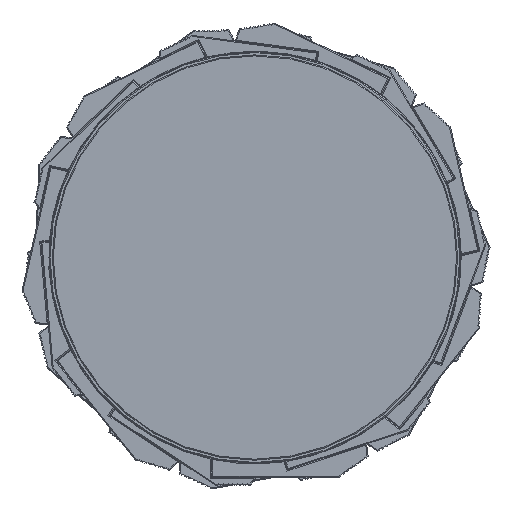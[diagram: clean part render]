
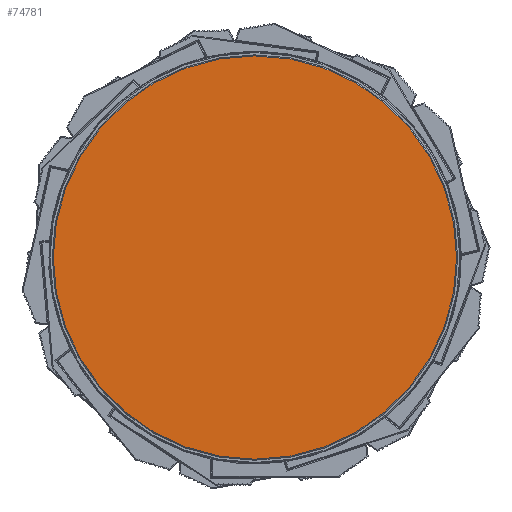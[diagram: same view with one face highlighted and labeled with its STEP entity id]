
A CAD part, front view. The second image highlights one B-rep face of the part: STEP entity #74781.
In plain terms, the highlighted planar face has unit normal (0, -1, 0).
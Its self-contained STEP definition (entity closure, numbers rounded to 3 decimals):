
#3778 = CARTESIAN_POINT ( 'NONE',  ( 0., -30., 278.586 ) ) ;
#4380 = CIRCLE ( 'NONE', #38338, 278.586 ) ;
#4460 = CIRCLE ( 'NONE', #39814, 278.586 ) ;
#5041 = DIRECTION ( 'NONE',  ( -0.5, 0., 0.866 ) ) ;
#5107 = CARTESIAN_POINT ( 'NONE',  ( 139.293, -30., -241.262 ) ) ;
#6052 = CARTESIAN_POINT ( 'NONE',  ( 0., -30., 0. ) ) ;
#6694 = DIRECTION ( 'NONE',  ( 0., -1., 0. ) ) ;
#6843 = CIRCLE ( 'NONE', #46515, 278.586 ) ;
#7749 = EDGE_CURVE ( 'Defeatured_0_0+Defeatured_0_2776+Defeatured_0_0+Defeatured_0_0', #70038, #81431, #17393, .T. ) ;
#8425 = PLANE ( 'NONE',  #55498 ) ;
#11446 = DIRECTION ( 'NONE',  ( 0.5, 0., 0.866 ) ) ;
#12312 = AXIS2_PLACEMENT_3D ( 'NONE', #55183, #14849, #21497 ) ;
#13265 = VERTEX_POINT ( 'NONE', #47044 ) ;
#13484 = AXIS2_PLACEMENT_3D ( 'NONE', #21412, #20984, #59258 ) ;
#14204 = DIRECTION ( 'NONE',  ( 0.5, 0., -0.866 ) ) ;
#14659 = AXIS2_PLACEMENT_3D ( 'NONE', #60305, #87342, #60735 ) ;
#14849 = DIRECTION ( 'NONE',  ( 0., -1., 0. ) ) ;
#16397 = EDGE_CURVE ( 'Defeatured_0_0+Defeatured_0_2+Defeatured_0_0+Defeatured_0_0', #27866, #45383, #6843, .T. ) ;
#17336 = VERTEX_POINT ( 'NONE', #20880 ) ;
#17393 = CIRCLE ( 'NONE', #25851, 278.586 ) ;
#18197 = VERTEX_POINT ( 'NONE', #3778 ) ;
#18937 = DIRECTION ( 'NONE',  ( 0., -1., 0. ) ) ;
#19123 = CIRCLE ( 'NONE', #13484, 278.586 ) ;
#19820 = DIRECTION ( 'NONE',  ( 0.5, 0., 0.866 ) ) ;
#20880 = CARTESIAN_POINT ( 'NONE',  ( 241.262, -30., 139.293 ) ) ;
#20984 = DIRECTION ( 'NONE',  ( 0., -1., 0. ) ) ;
#21412 = CARTESIAN_POINT ( 'NONE',  ( 0., -30., 0. ) ) ;
#21497 = DIRECTION ( 'NONE',  ( -1., 0., 0. ) ) ;
#22026 = CIRCLE ( 'NONE', #33561, 278.586 ) ;
#22677 = ORIENTED_EDGE ( 'NONE', *, *, #61120, .T. ) ;
#24222 = EDGE_CURVE ( 'Defeatured_0_0+Defeatured_0_2780+Defeatured_0_0+Defeatured_0_0', #81172, #18197, #86978, .T. ) ;
#25851 = AXIS2_PLACEMENT_3D ( 'NONE', #66737, #26831, #79613 ) ;
#26831 = DIRECTION ( 'NONE',  ( 0., -1., 0. ) ) ;
#26863 = DIRECTION ( 'NONE',  ( 0., -1., 0. ) ) ;
#26908 = CARTESIAN_POINT ( 'NONE',  ( 0., -30., 0. ) ) ;
#27466 = ORIENTED_EDGE ( 'NONE', *, *, #66493, .T. ) ;
#27763 = DIRECTION ( 'NONE',  ( 0., -1., 0. ) ) ;
#27866 = VERTEX_POINT ( 'NONE', #60376 ) ;
#28807 = CARTESIAN_POINT ( 'NONE',  ( 0., -30., 0. ) ) ;
#29565 = EDGE_CURVE ( 'Defeatured_0_0+Defeatured_0_2778+Defeatured_0_0+Defeatured_0_0', #55747, #13265, #61973, .T. ) ;
#29776 = CARTESIAN_POINT ( 'NONE',  ( 0., -30., -278.586 ) ) ;
#30835 = AXIS2_PLACEMENT_3D ( 'NONE', #80105, #27763, #19820 ) ;
#31371 = DIRECTION ( 'NONE',  ( -0.5, 0., -0.866 ) ) ;
#31690 = CIRCLE ( 'NONE', #14659, 278.586 ) ;
#32118 = CIRCLE ( 'NONE', #12312, 278.586 ) ;
#33141 = EDGE_CURVE ( 'Defeatured_0_0+Defeatured_0_2776+Defeatured_0_0+Defeatured_0_0', #60480, #70038, #22026, .T. ) ;
#33561 = AXIS2_PLACEMENT_3D ( 'NONE', #45375, #44076, #5041 ) ;
#33646 = AXIS2_PLACEMENT_3D ( 'NONE', #50906, #72167, #11446 ) ;
#34176 = EDGE_CURVE ( 'Defeatured_0_0+Defeatured_0_2+Defeatured_0_0+Defeatured_0_0', #45383, #55747, #73099, .T. ) ;
#34877 = AXIS2_PLACEMENT_3D ( 'NONE', #63699, #49974, #44628 ) ;
#38338 = AXIS2_PLACEMENT_3D ( 'NONE', #61195, #6694, #14204 ) ;
#39814 = AXIS2_PLACEMENT_3D ( 'NONE', #85429, #18937, #31371 ) ;
#40540 = VERTEX_POINT ( 'NONE', #52477 ) ;
#41027 = EDGE_CURVE ( 'Defeatured_0_0+Defeatured_0_2774+Defeatured_0_0+Defeatured_0_0', #71878, #27866, #4380, .T. ) ;
#44025 = EDGE_CURVE ( 'Defeatured_0_0+Defeatured_0_2774+Defeatured_0_0+Defeatured_0_0', #18197, #71878, #19123, .T. ) ;
#44076 = DIRECTION ( 'NONE',  ( 0., -1., 0. ) ) ;
#44628 = DIRECTION ( 'NONE',  ( 1., 0., 0. ) ) ;
#45375 = CARTESIAN_POINT ( 'NONE',  ( 0., -30., 0. ) ) ;
#45383 = VERTEX_POINT ( 'NONE', #82695 ) ;
#45686 = ORIENTED_EDGE ( 'NONE', *, *, #33141, .T. ) ;
#46511 = EDGE_CURVE ( 'Defeatured_0_0+Defeatured_0_2778+Defeatured_0_0+Defeatured_0_0', #13265, #60480, #53404, .T. ) ;
#46515 = AXIS2_PLACEMENT_3D ( 'NONE', #6052, #26863, #48111 ) ;
#47044 = CARTESIAN_POINT ( 'NONE',  ( -139.293, -30., -241.262 ) ) ;
#48111 = DIRECTION ( 'NONE',  ( 1., 0., 0. ) ) ;
#48502 = CARTESIAN_POINT ( 'NONE',  ( 139.293, -30., 241.262 ) ) ;
#49974 = DIRECTION ( 'NONE',  ( 0., -1., 0. ) ) ;
#50906 = CARTESIAN_POINT ( 'NONE',  ( 0., -30., 0. ) ) ;
#52477 = CARTESIAN_POINT ( 'NONE',  ( 278.586, -30., 0. ) ) ;
#53404 = CIRCLE ( 'NONE', #30835, 278.586 ) ;
#53709 = ORIENTED_EDGE ( 'NONE', *, *, #34176, .T. ) ;
#54637 = EDGE_LOOP ( 'NONE', ( #27466, #80009, #76538, #67715, #77330, #53709, #66464, #79273, #45686, #81979, #22677, #77947 ) ) ;
#55183 = CARTESIAN_POINT ( 'NONE',  ( 0., -30., 0. ) ) ;
#55463 = EDGE_CURVE ( 'Defeatured_0_0+Defeatured_0_2782+Defeatured_0_0+Defeatured_0_0', #40540, #17336, #31690, .T. ) ;
#55498 = AXIS2_PLACEMENT_3D ( 'NONE', #28807, #59682, #73418 ) ;
#55747 = VERTEX_POINT ( 'NONE', #80046 ) ;
#59258 = DIRECTION ( 'NONE',  ( 0.5, 0., -0.866 ) ) ;
#59682 = DIRECTION ( 'NONE',  ( 0., -1., 0. ) ) ;
#60305 = CARTESIAN_POINT ( 'NONE',  ( 0., -30., 0. ) ) ;
#60376 = CARTESIAN_POINT ( 'NONE',  ( -241.262, -30., 139.293 ) ) ;
#60480 = VERTEX_POINT ( 'NONE', #29776 ) ;
#60735 = DIRECTION ( 'NONE',  ( -1., 0., 0. ) ) ;
#61120 = EDGE_CURVE ( 'Defeatured_0_0+Defeatured_0_2782+Defeatured_0_0+Defeatured_0_0', #81431, #40540, #32118, .T. ) ;
#61195 = CARTESIAN_POINT ( 'NONE',  ( 0., -30., 0. ) ) ;
#61973 = CIRCLE ( 'NONE', #33646, 278.586 ) ;
#62932 = AXIS2_PLACEMENT_3D ( 'NONE', #26908, #72270, #65178 ) ;
#63699 = CARTESIAN_POINT ( 'NONE',  ( 0., -30., 0. ) ) ;
#65178 = DIRECTION ( 'NONE',  ( -0.5, 0., -0.866 ) ) ;
#66464 = ORIENTED_EDGE ( 'NONE', *, *, #29565, .T. ) ;
#66493 = EDGE_CURVE ( 'Defeatured_0_0+Defeatured_0_2780+Defeatured_0_0+Defeatured_0_0', #17336, #81172, #4460, .T. ) ;
#66737 = CARTESIAN_POINT ( 'NONE',  ( 0., -30., 0. ) ) ;
#67715 = ORIENTED_EDGE ( 'NONE', *, *, #41027, .T. ) ;
#69141 = FACE_OUTER_BOUND ( 'NONE', #54637, .T. ) ;
#70038 = VERTEX_POINT ( 'NONE', #5107 ) ;
#71878 = VERTEX_POINT ( 'NONE', #77633 ) ;
#72167 = DIRECTION ( 'NONE',  ( 0., -1., 0. ) ) ;
#72270 = DIRECTION ( 'NONE',  ( 0., -1., 0. ) ) ;
#73099 = CIRCLE ( 'NONE', #34877, 278.586 ) ;
#73418 = DIRECTION ( 'NONE',  ( 1., 0., 0. ) ) ;
#74781 = ADVANCED_FACE ( 'Defeatured_0_0', ( #69141 ), #8425, .T. ) ;
#76538 = ORIENTED_EDGE ( 'NONE', *, *, #44025, .T. ) ;
#77330 = ORIENTED_EDGE ( 'NONE', *, *, #16397, .T. ) ;
#77633 = CARTESIAN_POINT ( 'NONE',  ( -139.293, -30., 241.262 ) ) ;
#77947 = ORIENTED_EDGE ( 'NONE', *, *, #55463, .T. ) ;
#79273 = ORIENTED_EDGE ( 'NONE', *, *, #46511, .T. ) ;
#79613 = DIRECTION ( 'NONE',  ( -0.5, 0., 0.866 ) ) ;
#80009 = ORIENTED_EDGE ( 'NONE', *, *, #24222, .T. ) ;
#80046 = CARTESIAN_POINT ( 'NONE',  ( -241.262, -30., -139.293 ) ) ;
#80105 = CARTESIAN_POINT ( 'NONE',  ( 0., -30., 0. ) ) ;
#81172 = VERTEX_POINT ( 'NONE', #48502 ) ;
#81431 = VERTEX_POINT ( 'NONE', #86129 ) ;
#81979 = ORIENTED_EDGE ( 'NONE', *, *, #7749, .T. ) ;
#82695 = CARTESIAN_POINT ( 'NONE',  ( -278.586, -30., 0. ) ) ;
#85429 = CARTESIAN_POINT ( 'NONE',  ( 0., -30., 0. ) ) ;
#86129 = CARTESIAN_POINT ( 'NONE',  ( 241.262, -30., -139.293 ) ) ;
#86978 = CIRCLE ( 'NONE', #62932, 278.586 ) ;
#87342 = DIRECTION ( 'NONE',  ( 0., -1., 0. ) ) ;
